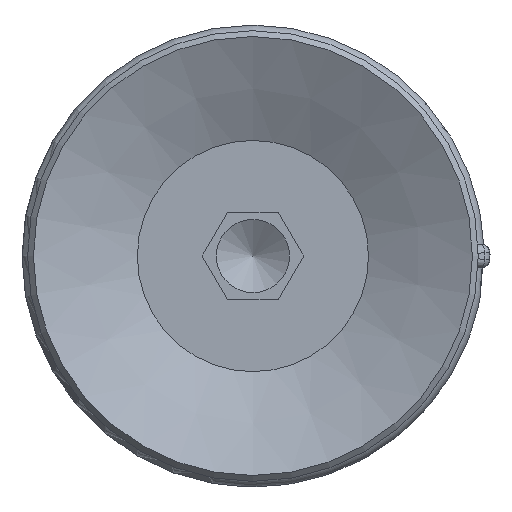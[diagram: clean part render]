
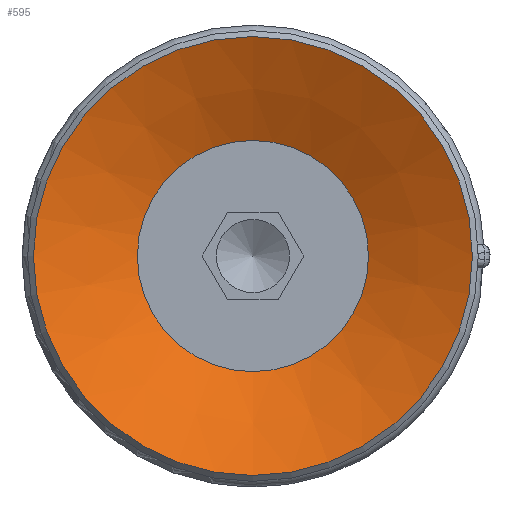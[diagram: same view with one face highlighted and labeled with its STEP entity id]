
A CAD part, front view. The second image highlights one B-rep face of the part: STEP entity #595.
In plain terms, the highlighted conical face has half-angle 64 degrees and reference radius 3.95 mm.
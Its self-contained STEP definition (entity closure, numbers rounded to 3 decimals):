
#595=ADVANCED_FACE('',(#932,#933),#934,.F.);
#932=FACE_BOUND('',#1378,.T.);
#933=FACE_OUTER_BOUND('',#1379,.T.);
#934=CONICAL_SURFACE('',#1380,3.95,1.117);
#1378=EDGE_LOOP('',(#2312));
#1379=EDGE_LOOP('',(#2313));
#1380=AXIS2_PLACEMENT_3D('',#2314,#2315,#2316);
#2312=ORIENTED_EDGE('',*,*,#2573,.F.);
#2313=ORIENTED_EDGE('',*,*,#2569,.T.);
#2314=CARTESIAN_POINT('',(0.0,-29.404,-47.168));
#2315=DIRECTION('',(-0.0,0.,1.0));
#2316=DIRECTION('',(0.0,-1.0,0.));
#2569=EDGE_CURVE('',#3006,#3006,#3007,.T.);
#2573=EDGE_CURVE('',#3014,#3014,#3015,.T.);
#3006=VERTEX_POINT('',#4080);
#3007=CIRCLE('',#4081,7.5);
#3014=VERTEX_POINT('',#4088);
#3015=CIRCLE('',#4089,3.95);
#4080=CARTESIAN_POINT('',(0.0,-36.904,-45.437));
#4081=AXIS2_PLACEMENT_3D('',#4483,#4484,#4485);
#4088=CARTESIAN_POINT('',(0.0,-33.354,-47.168));
#4089=AXIS2_PLACEMENT_3D('',#4495,#4496,#4497);
#4483=CARTESIAN_POINT('',(0.0,-29.404,-45.437));
#4484=DIRECTION('',(0.0,0.,1.0));
#4485=DIRECTION('',(0.0,-1.0,0.));
#4495=CARTESIAN_POINT('',(0.0,-29.404,-47.168));
#4496=DIRECTION('',(0.0,0.,1.0));
#4497=DIRECTION('',(0.0,-1.0,0.));
